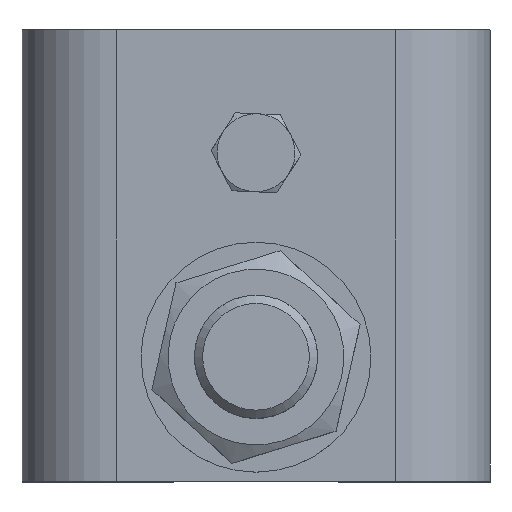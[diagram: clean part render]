
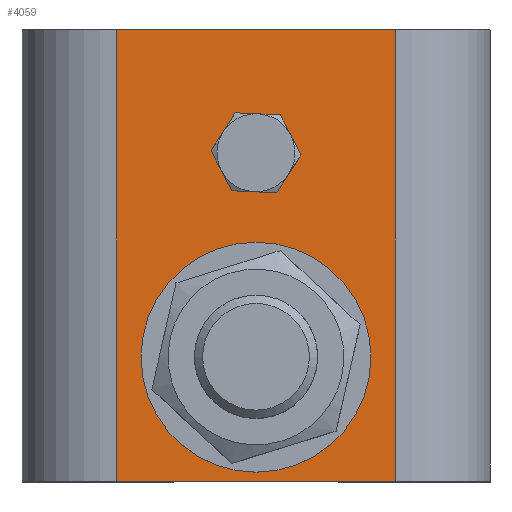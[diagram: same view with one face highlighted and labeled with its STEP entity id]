
A CAD part, top view. The second image highlights one B-rep face of the part: STEP entity #4059.
In plain terms, the highlighted planar face has unit normal (0, 0, 1).
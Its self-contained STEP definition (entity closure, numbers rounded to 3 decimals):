
#89=LINE('',#6216,#423);
#91=LINE('',#6220,#425);
#92=LINE('',#6222,#426);
#93=LINE('',#6223,#427);
#423=VECTOR('',#4870,110.);
#425=VECTOR('',#4874,68.);
#426=VECTOR('',#4875,110.);
#427=VECTOR('',#4876,68.);
#793=PLANE('',#4322);
#904=FACE_BOUND('',#1207,.T.);
#905=FACE_BOUND('',#1208,.T.);
#958=FACE_OUTER_BOUND('',#1206,.T.);
#1206=EDGE_LOOP('',(#2772,#2773,#2774,#2775));
#1207=EDGE_LOOP('',(#2776));
#1208=EDGE_LOOP('',(#2777));
#1490=CIRCLE('',#4323,5.053);
#1491=CIRCLE('',#4324,5.);
#1742=VERTEX_POINT('',#6200);
#1745=VERTEX_POINT('',#6207);
#1747=VERTEX_POINT('',#6219);
#1748=VERTEX_POINT('',#6221);
#1749=VERTEX_POINT('',#6224);
#1750=VERTEX_POINT('',#6226);
#2150=EDGE_CURVE('',#1742,#1745,#89,.T.);
#2152=EDGE_CURVE('',#1745,#1747,#91,.T.);
#2153=EDGE_CURVE('',#1747,#1748,#92,.T.);
#2154=EDGE_CURVE('',#1748,#1742,#93,.T.);
#2155=EDGE_CURVE('',#1749,#1749,#1490,.T.);
#2156=EDGE_CURVE('',#1750,#1750,#1491,.T.);
#2772=ORIENTED_EDGE('',*,*,#2150,.T.);
#2773=ORIENTED_EDGE('',*,*,#2152,.T.);
#2774=ORIENTED_EDGE('',*,*,#2153,.T.);
#2775=ORIENTED_EDGE('',*,*,#2154,.T.);
#2776=ORIENTED_EDGE('',*,*,#2155,.T.);
#2777=ORIENTED_EDGE('',*,*,#2156,.T.);
#4059=ADVANCED_FACE('',(#958,#904,#905),#793,.T.);
#4322=AXIS2_PLACEMENT_3D('',#6218,#4872,#4873);
#4323=AXIS2_PLACEMENT_3D('',#6225,#4877,#4878);
#4324=AXIS2_PLACEMENT_3D('',#6227,#4879,#4880);
#4870=DIRECTION('',(0.,1.,0.));
#4872=DIRECTION('center_axis',(0.,0.,1.));
#4873=DIRECTION('ref_axis',(1.,0.,0.));
#4874=DIRECTION('',(-1.,0.,0.));
#4875=DIRECTION('',(0.,-1.,0.));
#4876=DIRECTION('',(1.,0.,0.));
#4877=DIRECTION('center_axis',(0.,0.,-1.));
#4878=DIRECTION('ref_axis',(1.,0.,0.));
#4879=DIRECTION('center_axis',(0.,0.,-1.));
#4880=DIRECTION('ref_axis',(-1.,0.,0.));
#6200=CARTESIAN_POINT('',(34.,-55.,0.));
#6207=CARTESIAN_POINT('',(34.,55.,0.));
#6216=CARTESIAN_POINT('',(34.,27.5,0.));
#6218=CARTESIAN_POINT('Origin',(176.225,0.,0.));
#6219=CARTESIAN_POINT('',(-34.,55.,0.));
#6220=CARTESIAN_POINT('',(188.3,55.,0.));
#6221=CARTESIAN_POINT('',(-34.,-55.,0.));
#6222=CARTESIAN_POINT('',(-34.,-27.5,0.));
#6223=CARTESIAN_POINT('',(-188.3,-55.,0.));
#6224=CARTESIAN_POINT('',(5.053,-25.,0.));
#6225=CARTESIAN_POINT('Origin',(0.,-25.,0.));
#6226=CARTESIAN_POINT('',(5.,25.,0.));
#6227=CARTESIAN_POINT('Origin',(0.,25.,0.));
